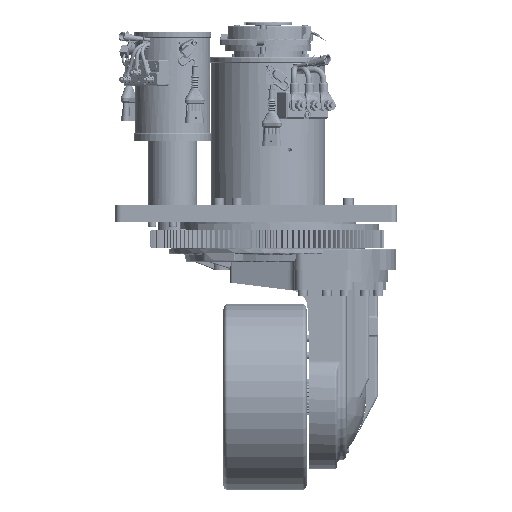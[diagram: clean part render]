
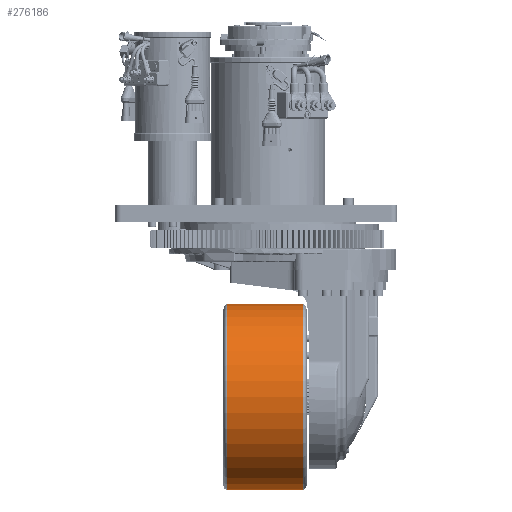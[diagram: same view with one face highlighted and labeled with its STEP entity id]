
A CAD part, front view. The second image highlights one B-rep face of the part: STEP entity #276186.
In plain terms, the highlighted cylindrical face has radius 155 mm (diameter 310 mm), a full revolution.
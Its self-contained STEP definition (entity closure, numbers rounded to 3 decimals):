
#29625=FACE_OUTER_BOUND('',#45747,.T.);
#45747=EDGE_LOOP('',(#235974,#235975,#235976,#235977));
#57717=CIRCLE('',#300551,155.);
#57719=CIRCLE('',#300554,155.);
#79801=LINE('',#476513,#103351);
#103351=VECTOR('',#369352,155.);
#127916=VERTEX_POINT('',#476507);
#127917=VERTEX_POINT('',#476511);
#164470=EDGE_CURVE('',#127916,#127916,#57717,.T.);
#164472=EDGE_CURVE('',#127917,#127917,#57719,.T.);
#164473=EDGE_CURVE('',#127917,#127916,#79801,.T.);
#235974=ORIENTED_EDGE('',*,*,#164472,.F.);
#235975=ORIENTED_EDGE('',*,*,#164473,.T.);
#235976=ORIENTED_EDGE('',*,*,#164470,.T.);
#235977=ORIENTED_EDGE('',*,*,#164473,.F.);
#248879=CYLINDRICAL_SURFACE('',#300553,155.);
#276186=ADVANCED_FACE('',(#29625),#248879,.T.);
#300551=AXIS2_PLACEMENT_3D('',#476508,#369344,#369345);
#300553=AXIS2_PLACEMENT_3D('',#476510,#369348,#369349);
#300554=AXIS2_PLACEMENT_3D('',#476512,#369350,#369351);
#369344=DIRECTION('center_axis',(1.,0.,0.));
#369345=DIRECTION('ref_axis',(0.,0.,
-1.));
#369348=DIRECTION('center_axis',(1.,0.,0.));
#369349=DIRECTION('ref_axis',(0.,0.,
-1.));
#369350=DIRECTION('center_axis',(1.,0.,0.));
#369351=DIRECTION('ref_axis',(0.,0.,
-1.));
#369352=DIRECTION('',(-1.,0.,0.));
#476507=CARTESIAN_POINT('',(-80.267,0.,-98.));
#476508=CARTESIAN_POINT('Origin',(-80.267,0.,
-253.));
#476510=CARTESIAN_POINT('Origin',(-17.55,0.,
-253.));
#476511=CARTESIAN_POINT('',(45.167,0.,-98.));
#476512=CARTESIAN_POINT('Origin',(45.167,0.,
-253.));
#476513=CARTESIAN_POINT('',(-17.55,0.,-98.));
